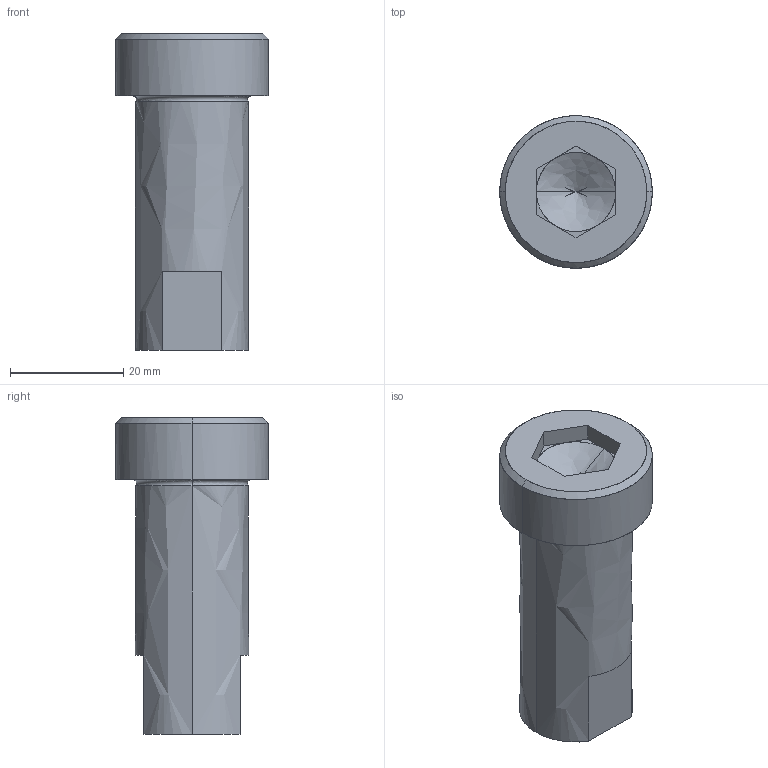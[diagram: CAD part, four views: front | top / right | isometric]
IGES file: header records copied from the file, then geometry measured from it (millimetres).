
Global section: file name: E:\UnigraphicsGraphicData\MISUMI_PRESS-PARTS\IGES\3d_sbtn20-45_00146_r00.igs; native system: NX V5.0; preprocessor: UGS NX IGES V5.0; author: MISUMI; date: 20110105.162507; units: millimetre
Bounding box: 27 x 27 x 56 mm (x, y, z)
Surface area: 5698.9 mm2 (no closed solid volume)
Topology: 0 solids, 0 shells, 38 faces, 220 edges, 216 vertices
Faces by surface type: bspline 38
